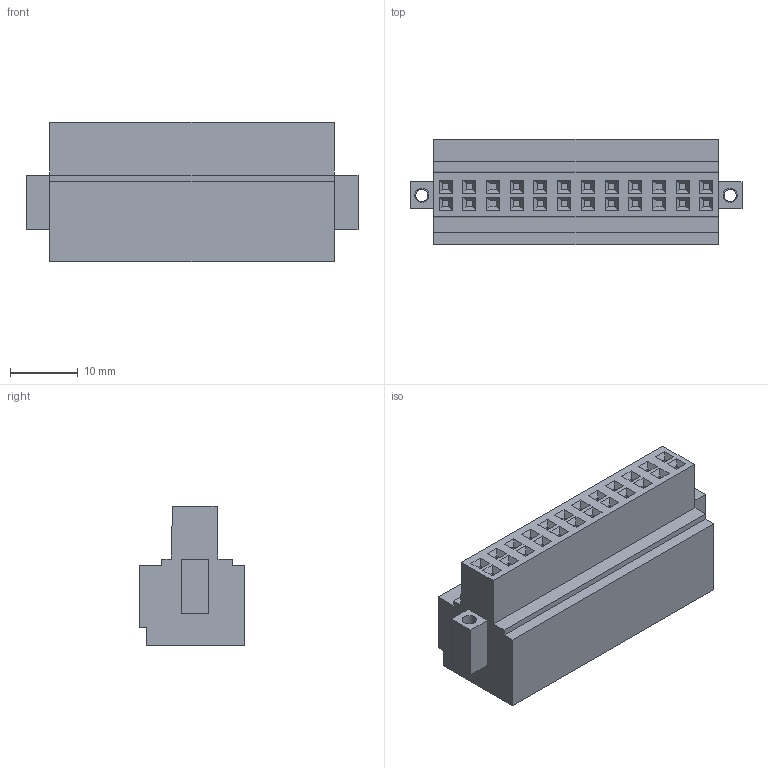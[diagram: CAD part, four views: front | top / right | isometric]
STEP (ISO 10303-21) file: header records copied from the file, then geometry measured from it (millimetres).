
FILE_DESCRIPTION((''),'2;1');
FILE_NAME('PLUG-SPRING-24-POS-B2L','2010-03-01T',('scarrasc'),(''),'PRO/ENGINEER BY PARAMETRIC TECHNOLOGY CORPORATION, 2006080','PRO/ENGINEER BY PARAMETRIC TECHNOLOGY CORPORATION, 2006080','');
FILE_SCHEMA(('CONFIG_CONTROL_DESIGN'));
Length unit declared in the file: millimetre
Products named in the file (1): PLUG-SPRING-24-POS-B2L
Bounding box: 49 x 15.6 x 20.6 mm (x, y, z)
Volume: 9719.9 mm3; surface area: 4931.9 mm2
Topology: 1 solids, 1 shells, 570 faces, 1278 edges, 788 vertices
Faces by surface type: plane 414, cylinder 108, cone 48
Entity records: 15508 total; most frequent: CARTESIAN_POINT 2636, DIRECTION 2634, ORIENTED_EDGE 2556, EDGE_CURVE 1278, VECTOR 1062, LINE 1062, VERTEX_POINT 788, AXIS2_PLACEMENT_3D 786
